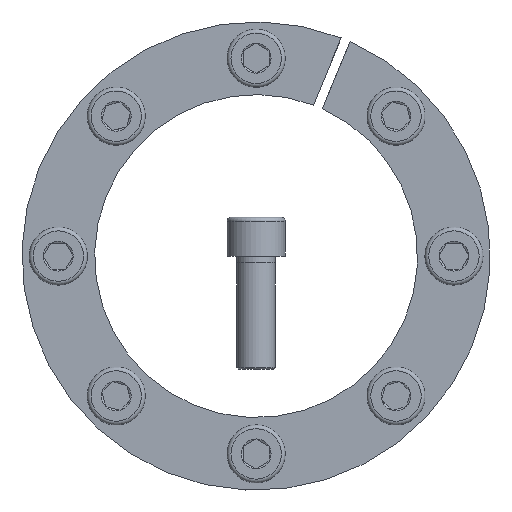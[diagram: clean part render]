
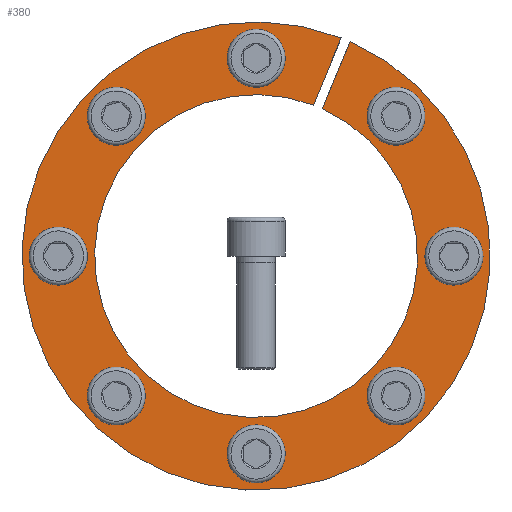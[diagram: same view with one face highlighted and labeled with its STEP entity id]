
A CAD part, front view. The second image highlights one B-rep face of the part: STEP entity #380.
In plain terms, the highlighted planar face has unit normal (0, -1, 0).
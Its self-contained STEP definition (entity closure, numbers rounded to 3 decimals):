
#380 = ADVANCED_FACE( '', ( #583, #584, #585, #586, #587, #588, #589, #590, #591 ), #592, .F. );
#583 = FACE_BOUND( '', #747, .T. );
#584 = FACE_BOUND( '', #748, .T. );
#585 = FACE_BOUND( '', #749, .T. );
#586 = FACE_BOUND( '', #750, .T. );
#587 = FACE_OUTER_BOUND( '', #751, .T. );
#588 = FACE_BOUND( '', #752, .T. );
#589 = FACE_BOUND( '', #753, .T. );
#590 = FACE_BOUND( '', #754, .T. );
#591 = FACE_BOUND( '', #755, .T. );
#592 = PLANE( '', #756 );
#747 = EDGE_LOOP( '', ( #960 ) );
#748 = EDGE_LOOP( '', ( #961 ) );
#749 = EDGE_LOOP( '', ( #962 ) );
#750 = EDGE_LOOP( '', ( #963 ) );
#751 = EDGE_LOOP( '', ( #964, #965, #966, #967 ) );
#752 = EDGE_LOOP( '', ( #968 ) );
#753 = EDGE_LOOP( '', ( #969 ) );
#754 = EDGE_LOOP( '', ( #970 ) );
#755 = EDGE_LOOP( '', ( #971 ) );
#756 = AXIS2_PLACEMENT_3D( '', #972, #973, #974 );
#960 = ORIENTED_EDGE( '', *, *, #1294, .T. );
#961 = ORIENTED_EDGE( '', *, *, #1295, .T. );
#962 = ORIENTED_EDGE( '', *, *, #1296, .T. );
#963 = ORIENTED_EDGE( '', *, *, #1297, .T. );
#964 = ORIENTED_EDGE( '', *, *, #1292, .F. );
#965 = ORIENTED_EDGE( '', *, *, #1288, .F. );
#966 = ORIENTED_EDGE( '', *, *, #1298, .T. );
#967 = ORIENTED_EDGE( '', *, *, #1299, .F. );
#968 = ORIENTED_EDGE( '', *, *, #1300, .T. );
#969 = ORIENTED_EDGE( '', *, *, #1301, .T. );
#970 = ORIENTED_EDGE( '', *, *, #1302, .T. );
#971 = ORIENTED_EDGE( '', *, *, #1303, .T. );
#972 = CARTESIAN_POINT( '', ( 0., 0., 72.5 ) );
#973 = DIRECTION( '', ( 0., 1., 0. ) );
#974 = DIRECTION( '', ( 0., 0., 1. ) );
#1288 = EDGE_CURVE( '', #1423, #1425, #1426, .T. );
#1292 = EDGE_CURVE( '', #1425, #1432, #1433, .T. );
#1294 = EDGE_CURVE( '', #1435, #1435, #1436, .T. );
#1295 = EDGE_CURVE( '', #1437, #1437, #1438, .T. );
#1296 = EDGE_CURVE( '', #1439, #1439, #1440, .T. );
#1297 = EDGE_CURVE( '', #1441, #1441, #1442, .T. );
#1298 = EDGE_CURVE( '', #1423, #1443, #1444, .T. );
#1299 = EDGE_CURVE( '', #1432, #1443, #1445, .T. );
#1300 = EDGE_CURVE( '', #1446, #1446, #1447, .T. );
#1301 = EDGE_CURVE( '', #1448, #1448, #1449, .T. );
#1302 = EDGE_CURVE( '', #1450, #1450, #1451, .T. );
#1303 = EDGE_CURVE( '', #1452, #1452, #1453, .T. );
#1423 = VERTEX_POINT( '', #1551 );
#1425 = VERTEX_POINT( '', #1554 );
#1426 = LINE( '', #1555, #1556 );
#1432 = VERTEX_POINT( '', #1564 );
#1433 = CIRCLE( '', #1565, 50. );
#1435 = VERTEX_POINT( '', #1568 );
#1436 = CIRCLE( '', #1569, 6. );
#1437 = VERTEX_POINT( '', #1570 );
#1438 = CIRCLE( '', #1571, 6. );
#1439 = VERTEX_POINT( '', #1572 );
#1440 = CIRCLE( '', #1573, 6. );
#1441 = VERTEX_POINT( '', #1574 );
#1442 = CIRCLE( '', #1575, 6. );
#1443 = VERTEX_POINT( '', #1576 );
#1444 = CIRCLE( '', #1577, 72.5 );
#1445 = LINE( '', #1578, #1579 );
#1446 = VERTEX_POINT( '', #1580 );
#1447 = CIRCLE( '', #1581, 6. );
#1448 = VERTEX_POINT( '', #1582 );
#1449 = CIRCLE( '', #1583, 6. );
#1450 = VERTEX_POINT( '', #1584 );
#1451 = CIRCLE( '', #1585, 6. );
#1452 = VERTEX_POINT( '', #1586 );
#1453 = CIRCLE( '', #1587, 6. );
#1551 = CARTESIAN_POINT( '', ( 26.353, 0., 67.541 ) );
#1554 = CARTESIAN_POINT( '', ( 17.74, 0., 46.747 ) );
#1555 = CARTESIAN_POINT( '', ( 26.359, 0., 67.555 ) );
#1556 = VECTOR( '', #1674, 1000. );
#1564 = CARTESIAN_POINT( '', ( 20.511, 0., 45.599 ) );
#1565 = AXIS2_PLACEMENT_3D( '', #1680, #1681, #1682 );
#1568 = CARTESIAN_POINT( '', ( -61.25, 0., 6. ) );
#1569 = AXIS2_PLACEMENT_3D( '', #1684, #1685, #1686 );
#1570 = CARTESIAN_POINT( '', ( -6., 0., -61.25 ) );
#1571 = AXIS2_PLACEMENT_3D( '', #1687, #1688, #1689 );
#1572 = CARTESIAN_POINT( '', ( 61.25, 0., -6. ) );
#1573 = AXIS2_PLACEMENT_3D( '', #1690, #1691, #1692 );
#1574 = CARTESIAN_POINT( '', ( 6., 0., 61.25 ) );
#1575 = AXIS2_PLACEMENT_3D( '', #1693, #1694, #1695 );
#1576 = CARTESIAN_POINT( '', ( 29.124, 0., 66.393 ) );
#1577 = AXIS2_PLACEMENT_3D( '', #1696, #1697, #1698 );
#1578 = CARTESIAN_POINT( '', ( 20.511, 0., 45.599 ) );
#1579 = VECTOR( '', #1699, 1000. );
#1580 = CARTESIAN_POINT( '', ( 47.553, 0., 39.068 ) );
#1581 = AXIS2_PLACEMENT_3D( '', #1700, #1701, #1702 );
#1582 = CARTESIAN_POINT( '', ( 39.068, 0., -47.553 ) );
#1583 = AXIS2_PLACEMENT_3D( '', #1703, #1704, #1705 );
#1584 = CARTESIAN_POINT( '', ( -47.553, 0., -39.068 ) );
#1585 = AXIS2_PLACEMENT_3D( '', #1706, #1707, #1708 );
#1586 = CARTESIAN_POINT( '', ( -39.068, 0., 47.553 ) );
#1587 = AXIS2_PLACEMENT_3D( '', #1709, #1710, #1711 );
#1674 = DIRECTION( '', ( -0.383, 0., -0.924 ) );
#1680 = CARTESIAN_POINT( '', ( 0., 0., 0. ) );
#1681 = DIRECTION( '', ( 0., -1., 0. ) );
#1682 = DIRECTION( '', ( 0., 0., -1. ) );
#1684 = CARTESIAN_POINT( '', ( -61.25, 0., 0. ) );
#1685 = DIRECTION( '', ( 0., 1., 0. ) );
#1686 = DIRECTION( '', ( 0., 0., 1. ) );
#1687 = CARTESIAN_POINT( '', ( 0., 0., -61.25 ) );
#1688 = DIRECTION( '', ( 0., 1., 0. ) );
#1689 = DIRECTION( '', ( -1., 0., 0. ) );
#1690 = CARTESIAN_POINT( '', ( 61.25, 0., 0. ) );
#1691 = DIRECTION( '', ( 0., 1., 0. ) );
#1692 = DIRECTION( '', ( 0., 0., -1. ) );
#1693 = CARTESIAN_POINT( '', ( 0., 0., 61.25 ) );
#1694 = DIRECTION( '', ( 0., 1., 0. ) );
#1695 = DIRECTION( '', ( 1., 0., 0. ) );
#1696 = CARTESIAN_POINT( '', ( 0., 0., 0. ) );
#1697 = DIRECTION( '', ( 0., -1., 0. ) );
#1698 = DIRECTION( '', ( 0., 0., -1. ) );
#1699 = DIRECTION( '', ( 0.383, 0., 0.924 ) );
#1700 = CARTESIAN_POINT( '', ( 43.31, 0., 43.31 ) );
#1701 = DIRECTION( '', ( 0., 1., 0. ) );
#1702 = DIRECTION( '', ( 0.707, 0., -0.707 ) );
#1703 = CARTESIAN_POINT( '', ( 43.31, 0., -43.31 ) );
#1704 = DIRECTION( '', ( 0., 1., 0. ) );
#1705 = DIRECTION( '', ( -0.707, 0., -0.707 ) );
#1706 = CARTESIAN_POINT( '', ( -43.31, 0., -43.31 ) );
#1707 = DIRECTION( '', ( 0., 1., 0. ) );
#1708 = DIRECTION( '', ( -0.707, 0., 0.707 ) );
#1709 = CARTESIAN_POINT( '', ( -43.31, 0., 43.31 ) );
#1710 = DIRECTION( '', ( 0., 1., 0. ) );
#1711 = DIRECTION( '', ( 0.707, 0., 0.707 ) );
